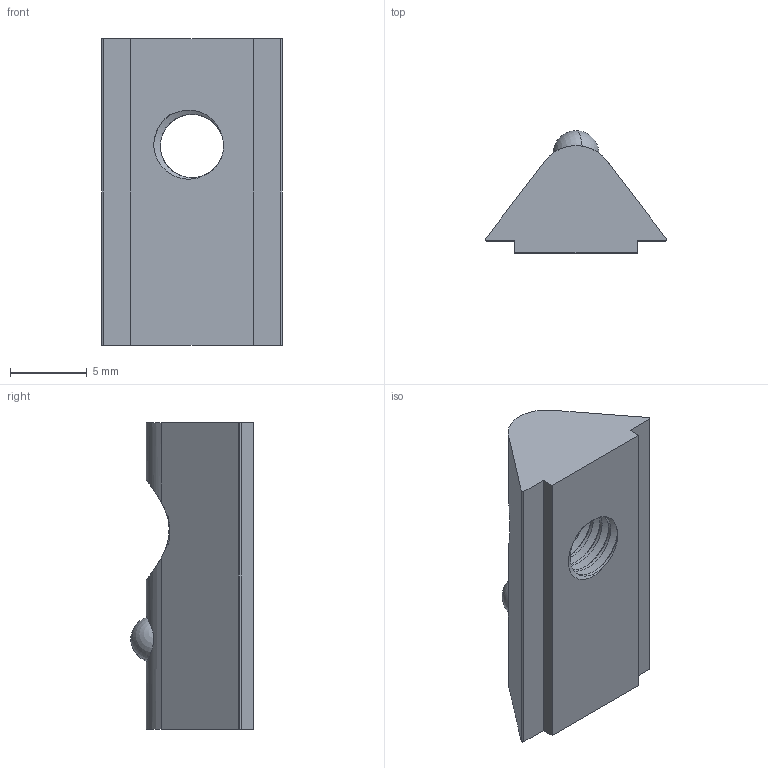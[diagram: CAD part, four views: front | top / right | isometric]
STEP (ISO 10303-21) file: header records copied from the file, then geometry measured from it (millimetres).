
FILE_DESCRIPTION (( 'STEP AP214' ), '1' );
FILE_NAME ('8-4-M5.30.STEP', '2019-01-13T09:34:52', ( '' ), ( '' ), 'SwSTEP 2.0', 'SolidWorks 2018', '' );
FILE_SCHEMA (( 'AUTOMOTIVE_DESIGN' ));
Length unit declared in the file: millimetre
Products named in the file (3): 8-4-M5.30; Bal 6-2; Moer 8-4-30-M5
Assembly tree (2 placements, depth 2):
  8-4-M5.30
    Moer 8-4-30-M5
    Bal 6-2
Bounding box: 11.79 x 8 x 20 mm (x, y, z)
Volume: 903.6 mm3; surface area: 860.4 mm2
Topology: 2 solids, 2 shells, 45 faces, 129 edges, 84 vertices
Faces by surface type: cylinder 23, plane 10, cone 4, bspline 4, sphere 4
Entity records: 3339 total; most frequent: CARTESIAN_POINT 2238, ORIENTED_EDGE 246, DIRECTION 174, EDGE_CURVE 123, VERTEX_POINT 82, AXIS2_PLACEMENT_3D 64, EDGE_LOOP 47, VECTOR 46
